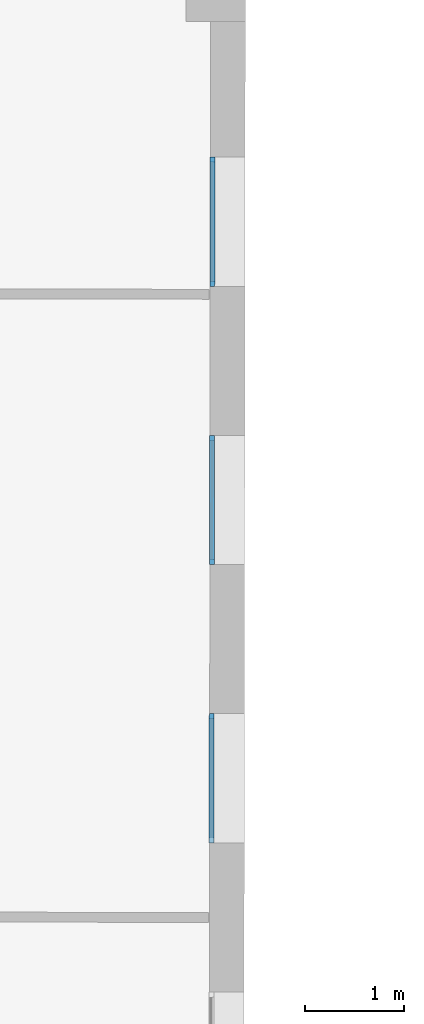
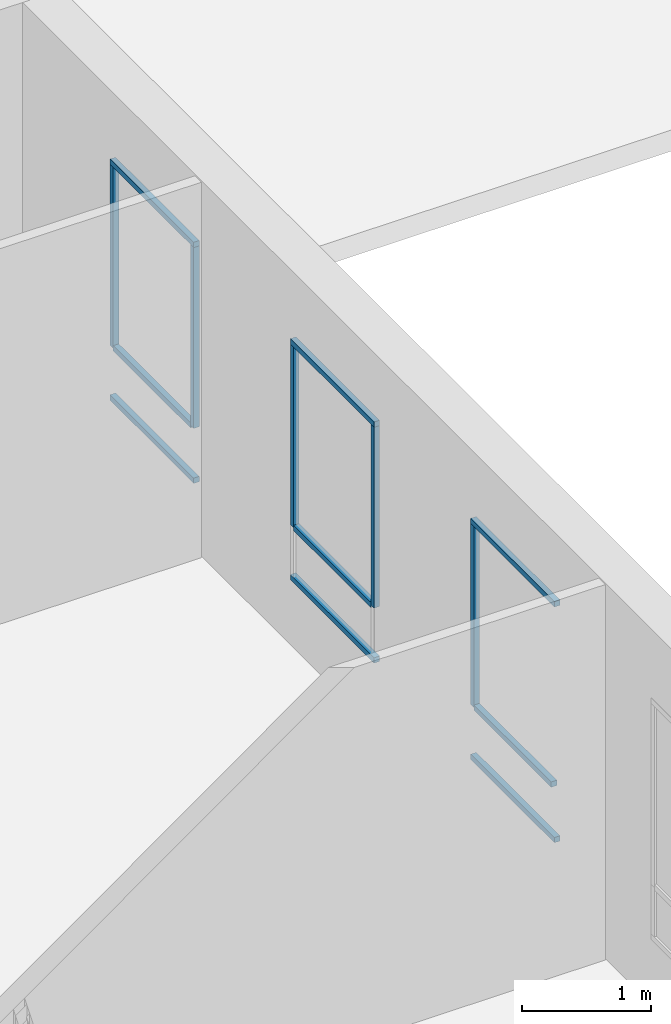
# One storey, part 17 of 101: 14 members, 3 elements without a shape of their own.
"""IFC2X3 building model written with IfcOpenShell, lengths in metres."""

from ifc_helpers import new_model, entity, si_unit, converted_unit, derived_unit, direction, frame, frame_2d, origin, origin_2d_with_axis, place, context, subcontext, project, spatial, rectangle, extrude, source, transform, mapped, material, type_object, type_shapes, element, aggregate, save


model = new_model("IFC2X3")

# Units and contexts
model_context = context("Model", 3, precision=1e-05, world=origin(), true_north=direction((6.123233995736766e-17, 1.0)))
body_context = subcontext(model_context, "Body", "Model", "MODEL_VIEW")
ifc_project = project(units=[si_unit("LENGTHUNIT", "METRE"), si_unit("AREAUNIT", "SQUARE_METRE"), converted_unit("PLANEANGLEUNIT", "DEGREE", entity("IfcPlaneAngleMeasure", 0.017453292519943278), si_unit("PLANEANGLEUNIT", "RADIAN"), dimensions=[0, 0, 0, 0, 0, 0, 0]), derived_unit("THERMALTRANSMITTANCEUNIT", [(si_unit("MASSUNIT", "GRAM", prefix="KILO"), 1), (si_unit("THERMODYNAMICTEMPERATUREUNIT", "KELVIN"), -1), (si_unit("TIMEUNIT", "SECOND"), -3)])], contexts=[model_context])

# Site, building, storey
site_placement = place(None, frame((1253.6752467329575, 2072.143113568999, 91.49999999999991), z_axis=(0.0, 0.0, 1.0), x_axis=(0.7237211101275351, 0.6900925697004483, 0.0)))
site = spatial("IfcSite", under=ifc_project, at=site_placement, Name="Surface", CompositionType="ELEMENT")
building_placement = place(site_placement, origin())
building = spatial("IfcBuilding", under=site, at=building_placement, CompositionType="ELEMENT")
storey_placement = place(building_placement, origin())
storey = spatial("IfcBuildingStorey", under=building, at=storey_placement, Name="0- Rdc", CompositionType="ELEMENT", Elevation=-5.764692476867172e-13)

# Curtain wall, member
curtain_wall_type = type_object("IfcCurtainWallType", Name="Mur-rideau:Menuiserie Ext 1F+1OB VERTIC", PredefinedType="NOTDEFINED")
curtain_wall_1_placement = place(storey_placement, origin())
curtain_wall_1 = element("IfcCurtainWall", 1, at=curtain_wall_1_placement, inside=storey, type_object=curtain_wall_type, Name="Mur-rideau:Menuiserie Ext 1F+1OB VERTIC", ObjectType="Mur-rideau:Menuiserie Ext 1F+1OB VERTIC")
ifc_material = material(Name="OMD_Aluminium Men Ext")
member_type_1 = type_object("IfcMemberType", Name="Meneau rectangulaire:50x50", PredefinedType="MULLION", material=ifc_material)
shared_shape_1 = source(origin(), body_context, "Body", "SweptSolid", [
    extrude(rectangle(XDim=0.05, YDim=0.049999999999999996, at=origin_2d_with_axis()), frame((-0.025, 0.0, -1.2996959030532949), z_axis=(0.0, 0.0, 1.0), x_axis=(-1.0, 0.0, 0.0)), (0.0, 0.0, 1.0), 1.2996959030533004),
])
type_shapes(member_type_1, [shared_shape_1])
member_1_placement = place(curtain_wall_1_placement, frame((194.64624495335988, -13.201600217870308, 2.8999999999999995), z_axis=(0.6909838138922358, 0.7228702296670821, 0.0), x_axis=(0.0, 0.0, 1.0)))
member_1 = element("IfcMember", 2, at=member_1_placement, type_object=member_type_1, material=ifc_material, Name="Meneau rectangulaire:50x50", ObjectType="Meneau rectangulaire:50x50", context=body_context, shape_type="MappedRepresentation", body=[
    mapped(shared_shape_1, transform((0.0, 0.0, 0.0), scale=1.0)),
])

curtain_wall_2_placement = place(storey_placement, origin())
curtain_wall_2 = element("IfcCurtainWall", 3, at=curtain_wall_2_placement, inside=storey, type_object=curtain_wall_type, Name="Mur-rideau:Menuiserie Ext 1F+1OB VERTIC", ObjectType="Mur-rideau:Menuiserie Ext 1F+1OB VERTIC")
member_2_placement = place(curtain_wall_2_placement, frame((192.71149027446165, -15.225636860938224, 2.8999999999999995), z_axis=(0.690983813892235, 0.7228702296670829, 0.0), x_axis=(0.0, 0.0, 1.0)))
member_2 = element("IfcMember", 4, at=member_2_placement, type_object=member_type_1, material=ifc_material, Name="Meneau rectangulaire:50x50", ObjectType="Meneau rectangulaire:50x50", context=body_context, shape_type="MappedRepresentation", body=[
    mapped(shared_shape_1, transform((0.0, 0.0, 0.0), scale=1.0)),
])

curtain_wall_3_placement = place(storey_placement, origin())
curtain_wall_3 = element("IfcCurtainWall", 5, at=curtain_wall_3_placement, inside=storey, type_object=curtain_wall_type, Name="Mur-rideau:Menuiserie Ext 1F+1OB VERTIC", ObjectType="Mur-rideau:Menuiserie Ext 1F+1OB VERTIC")
member_3_placement = place(curtain_wall_3_placement, frame((190.7767355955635, -17.249673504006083, 2.8999999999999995), z_axis=(0.6909838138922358, 0.7228702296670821, 0.0), x_axis=(0.0, 0.0, 1.0)))
member_3 = element("IfcMember", 6, at=member_3_placement, type_object=member_type_1, material=ifc_material, Name="Meneau rectangulaire:50x50", ObjectType="Meneau rectangulaire:50x50", context=body_context, shape_type="MappedRepresentation", body=[
    mapped(shared_shape_1, transform((0.0, 0.0, 0.0), scale=1.0)),
])

# Member
member_type_2 = type_object("IfcMemberType", Name="Meneau rectangulaire:50x50", PredefinedType="MULLION", material=ifc_material)
shared_shape_2 = source(origin(), body_context, "Body", "SweptSolid", [
    extrude(rectangle(XDim=0.05, YDim=0.05, at=origin_2d_with_axis()), frame((-0.025, 0.0, -1.2996959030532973), z_axis=(0.0, 0.0, 1.0), x_axis=(-1.0, 0.0, 0.0)), (0.0, 0.0, 1.0), 1.2996959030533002),
])
type_shapes(member_type_2, [shared_shape_2])
member_4_placement = place(curtain_wall_1_placement, frame((193.74817612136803, -14.141111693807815, 0.62), z_axis=(-0.6909838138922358, -0.7228702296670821, 0.0), x_axis=(0.0, 0.0, -1.0)))
member_4 = element("IfcMember", 7, at=member_4_placement, type_object=member_type_2, material=ifc_material, Name="Meneau rectangulaire:50x50", ObjectType="Meneau rectangulaire:50x50", context=body_context, shape_type="MappedRepresentation", body=[
    mapped(shared_shape_2, transform((0.0, 0.0, 0.0), scale=1.0)),
])

member_5_placement = place(curtain_wall_2_placement, frame((191.8134214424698, -16.165148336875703, 0.62), z_axis=(-0.690983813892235, -0.7228702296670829, 0.0), x_axis=(0.0, 0.0, -1.0)))
member_5 = element("IfcMember", 8, at=member_5_placement, type_object=member_type_2, material=ifc_material, Name="Meneau rectangulaire:50x50", ObjectType="Meneau rectangulaire:50x50", context=body_context, shape_type="MappedRepresentation", body=[
    mapped(shared_shape_2, transform((0.0, 0.0, 0.0), scale=1.0)),
])

member_6_placement = place(curtain_wall_3_placement, frame((189.87866676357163, -18.18918497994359, 0.62), z_axis=(-0.6909838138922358, -0.7228702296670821, 0.0), x_axis=(0.0, 0.0, -1.0)))
member_6 = element("IfcMember", 9, at=member_6_placement, type_object=member_type_2, material=ifc_material, Name="Meneau rectangulaire:50x50", ObjectType="Meneau rectangulaire:50x50", context=body_context, shape_type="MappedRepresentation", body=[
    mapped(shared_shape_2, transform((0.0, 0.0, 0.0), scale=1.0)),
])

member_type_3 = type_object("IfcMemberType", Name="Meneau rectangulaire:50x50", PredefinedType="MULLION", material=ifc_material)
shared_shape_3 = source(origin(), body_context, "Body", "SweptSolid", [
    extrude(rectangle(XDim=0.05, YDim=0.049999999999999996, at=origin_2d_with_axis()), frame((-0.025, 0.0, -1.7099999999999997), z_axis=(0.0, 0.0, 1.0), x_axis=(-1.0, 0.0, 0.0)), (0.0, 0.0, 1.0), 1.7099999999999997),
])
type_shapes(member_type_3, [shared_shape_3])
member_7_placement = place(curtain_wall_1_placement, frame((193.74817612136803, -14.14111169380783, 2.8499999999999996), z_axis=(0.0, 0.0, 1.0), x_axis=(-0.6909838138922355, -0.7228702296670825, 0.0)))
member_7 = element("IfcMember", 10, at=member_7_placement, type_object=member_type_3, material=ifc_material, Name="Meneau rectangulaire:50x50", ObjectType="Meneau rectangulaire:50x50", context=body_context, shape_type="MappedRepresentation", body=[
    mapped(shared_shape_3, transform((0.0, 0.0, 0.0), scale=1.0)),
])

member_8_placement = place(curtain_wall_2_placement, frame((191.8134214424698, -16.16514833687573, 2.8499999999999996), z_axis=(0.0, 0.0, 1.0), x_axis=(-0.6909838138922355, -0.7228702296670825, 0.0)))
member_8 = element("IfcMember", 11, at=member_8_placement, type_object=member_type_3, material=ifc_material, Name="Meneau rectangulaire:50x50", ObjectType="Meneau rectangulaire:50x50", context=body_context, shape_type="MappedRepresentation", body=[
    mapped(shared_shape_3, transform((0.0, 0.0, 0.0), scale=1.0)),
])

member_type_4 = type_object("IfcMemberType", Name="Meneau rectangulaire:50x50", PredefinedType="MULLION", material=ifc_material)
shared_shape_4 = source(origin(), body_context, "Body", "SweptSolid", [
    extrude(rectangle(XDim=0.05, YDim=0.049999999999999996, at=origin_2d_with_axis()), frame((-0.025, 0.0, -1.7099999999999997), z_axis=(0.0, 0.0, 1.0), x_axis=(-1.0, 0.0, 0.0)), (0.0, 0.0, 1.0), 1.7099999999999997),
])
type_shapes(member_type_4, [shared_shape_4])
member_9_placement = place(curtain_wall_1_placement, frame((194.64624495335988, -13.201600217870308, 1.14), z_axis=(0.0, 0.0, -1.0), x_axis=(0.6909838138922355, 0.7228702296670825, 0.0)))
member_9 = element("IfcMember", 12, at=member_9_placement, type_object=member_type_4, material=ifc_material, Name="Meneau rectangulaire:50x50", ObjectType="Meneau rectangulaire:50x50", context=body_context, shape_type="MappedRepresentation", body=[
    mapped(shared_shape_4, transform((0.0, 0.0, 0.0), scale=1.0)),
])

member_10_placement = place(curtain_wall_2_placement, frame((192.71149027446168, -15.225636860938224, 1.14), z_axis=(0.0, 0.0, -1.0), x_axis=(0.6909838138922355, 0.7228702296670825, 0.0)))
member_10 = element("IfcMember", 13, at=member_10_placement, type_object=member_type_4, material=ifc_material, Name="Meneau rectangulaire:50x50", ObjectType="Meneau rectangulaire:50x50", context=body_context, shape_type="MappedRepresentation", body=[
    mapped(shared_shape_4, transform((0.0, 0.0, 0.0), scale=1.0)),
])

member_11_placement = place(curtain_wall_3_placement, frame((190.77673559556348, -17.249673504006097, 1.14), z_axis=(0.0, 0.0, -1.0), x_axis=(0.6909838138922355, 0.7228702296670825, 0.0)))
member_11 = element("IfcMember", 14, at=member_11_placement, type_object=member_type_4, material=ifc_material, Name="Meneau rectangulaire:50x50", ObjectType="Meneau rectangulaire:50x50", context=body_context, shape_type="MappedRepresentation", body=[
    mapped(shared_shape_4, transform((0.0, 0.0, 0.0), scale=1.0)),
])

member_type_5 = type_object("IfcMemberType", Name="Meneau rectangulaire:50x50", PredefinedType="MULLION", material=ifc_material)
shared_shape_5 = source(origin(), body_context, "Body", "SweptSolid", [
    extrude(rectangle(XDim=0.05, YDim=0.05, at=frame_2d((0.0, -1.734723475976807e-18), x_axis=(1.0, 0.0))), frame((0.0, 0.0, -1.1996959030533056), z_axis=(0.0, 0.0, 1.0), x_axis=(-1.0, 0.0, 0.0)), (0.0, 0.0, 1.0), 1.1996959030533),
])
type_shapes(member_type_5, [shared_shape_5])
member_12_placement = place(curtain_wall_1_placement, frame((194.61169576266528, -13.237743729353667, 1.14), z_axis=(0.6909838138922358, 0.7228702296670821, 0.0), x_axis=(0.0, 0.0, 1.0)))
member_12 = element("IfcMember", 15, at=member_12_placement, type_object=member_type_5, material=ifc_material, Name="Meneau rectangulaire:50x50", ObjectType="Meneau rectangulaire:50x50", context=body_context, shape_type="MappedRepresentation", body=[
    mapped(shared_shape_5, transform((0.0, 0.0, 0.0), scale=1.0)),
])

aggregate(curtain_wall_1, [member_1, member_4, member_7, member_9, member_12])

member_13_placement = place(curtain_wall_2_placement, frame((192.67694108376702, -15.261780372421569, 1.14), z_axis=(0.690983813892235, 0.7228702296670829, 0.0), x_axis=(0.0, 0.0, 1.0)))
member_13 = element("IfcMember", 16, at=member_13_placement, type_object=member_type_5, material=ifc_material, Name="Meneau rectangulaire:50x50", ObjectType="Meneau rectangulaire:50x50", context=body_context, shape_type="MappedRepresentation", body=[
    mapped(shared_shape_5, transform((0.0, 0.0, 0.0), scale=1.0)),
])

aggregate(curtain_wall_2, [member_2, member_5, member_8, member_10, member_13])

member_14_placement = place(curtain_wall_3_placement, frame((190.7421864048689, -17.285817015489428, 1.14), z_axis=(0.6909838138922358, 0.7228702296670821, 0.0), x_axis=(0.0, 0.0, 1.0)))
member_14 = element("IfcMember", 17, at=member_14_placement, type_object=member_type_5, material=ifc_material, Name="Meneau rectangulaire:50x50", ObjectType="Meneau rectangulaire:50x50", context=body_context, shape_type="MappedRepresentation", body=[
    mapped(shared_shape_5, transform((0.0, 0.0, 0.0), scale=1.0)),
])

aggregate(curtain_wall_3, [member_3, member_6, member_11, member_14])

save(model, "model.ifc")
